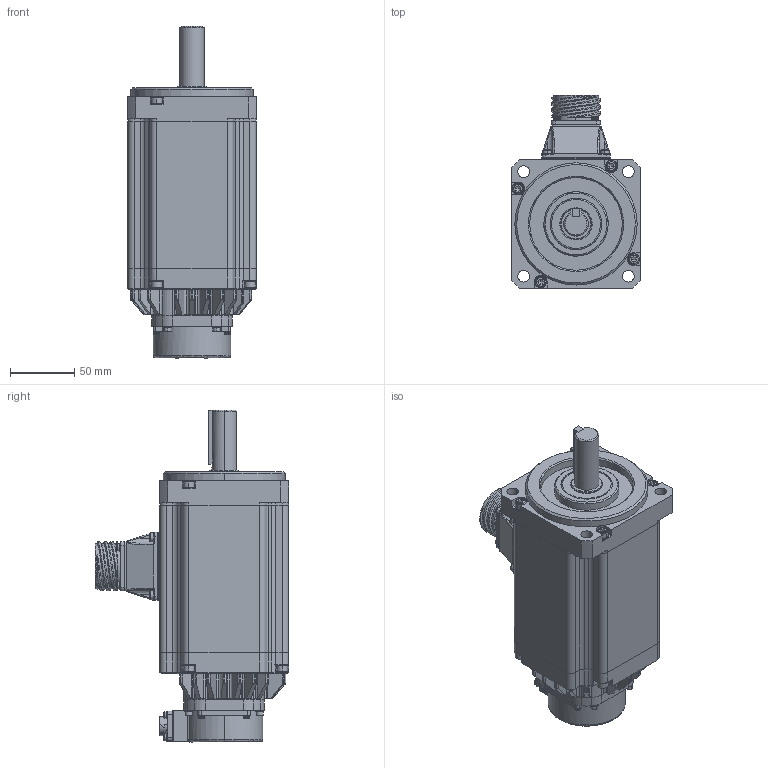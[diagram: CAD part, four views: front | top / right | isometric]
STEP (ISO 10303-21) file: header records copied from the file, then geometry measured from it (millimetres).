
FILE_DESCRIPTION (( 'STEP AP214' ), '1' );
FILE_NAME ('CSMS_10BT3ATT3.STEP', '2018-04-27T10:15:13', ( '' ), ( '' ), 'SwSTEP 2.0', 'SolidWorks 2017', '' );
FILE_SCHEMA (( 'AUTOMOTIVE_DESIGN' ));
Length unit declared in the file: millimetre
Products named in the file (9): ki-; jku; oilseal; sensor; usirofuta; motorconnector; ke-su; CSMS_10BT3ATT3; maefuta1
Assembly tree (8 placements, depth 2):
  CSMS_10BT3ATT3
    ke-su
    motorconnector
    usirofuta
    sensor
    oilseal
    jku
    ki-
    maefuta1
Bounding box: 100 x 150 x 258 mm (x, y, z)
Volume: 1627402.8 mm3; surface area: 184118.5 mm2
Topology: 8 solids, 12 shells, 1922 faces, 5270 edges, 3456 vertices
Faces by surface type: plane 765, cylinder 640, bspline 286, cone 159, torus 40, sphere 32
Entity records: 91566 total; most frequent: CARTESIAN_POINT 47185, ORIENTED_EDGE 10376, DIRECTION 7091, EDGE_CURVE 5188, VERTEX_POINT 3436, VECTOR 2533, LINE 2533, AXIS2_PLACEMENT_3D 2279
